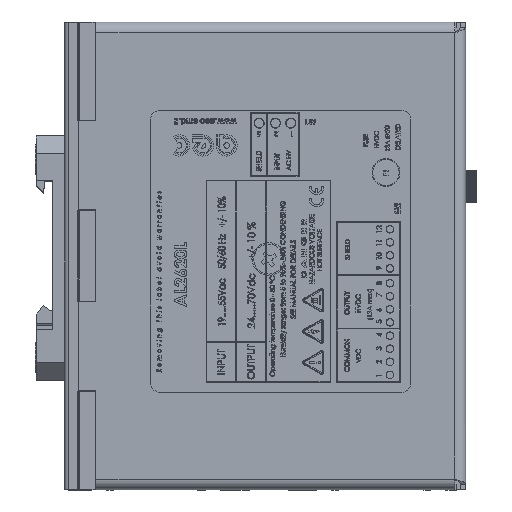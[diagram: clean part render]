
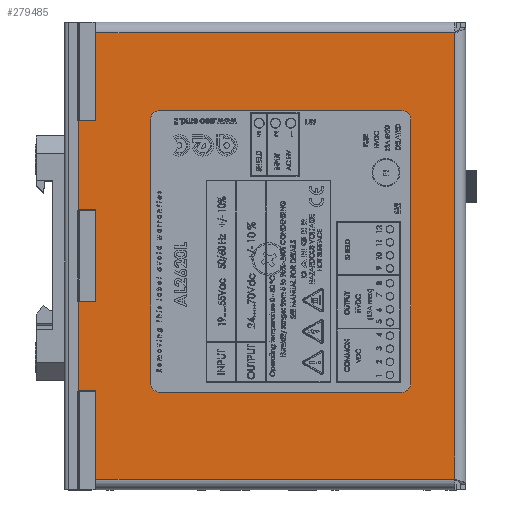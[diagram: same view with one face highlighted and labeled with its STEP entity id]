
A CAD part, top view. The second image highlights one B-rep face of the part: STEP entity #279485.
In plain terms, the highlighted planar face has unit normal (0, 0, 1) as drawn and (0, 1, 0) by its records, which use the part's own axes.
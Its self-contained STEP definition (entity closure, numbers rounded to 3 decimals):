
#4194 = CARTESIAN_POINT ( 'NONE',  ( 3.619, 1.5, -110.474 ) ) ;
#10604 = DIRECTION ( 'NONE',  ( 0., 0., 1. ) ) ;
#11599 = EDGE_CURVE ( 'NONE', #281097, #204895, #102443, .T. ) ;
#15467 = EDGE_CURVE ( 'NONE', #63811, #137137, #304868, .T. ) ;
#18132 = ORIENTED_EDGE ( 'NONE', *, *, #88905, .F. ) ;
#20168 = VERTEX_POINT ( 'NONE', #194477 ) ;
#21049 = LINE ( 'NONE', #186192, #291514 ) ;
#27359 = FACE_BOUND ( 'NONE', #86993, .T. ) ;
#28293 = EDGE_CURVE ( 'NONE', #146772, #172751, #120592, .T. ) ;
#31165 = CIRCLE ( 'NONE', #267890, 4.625 ) ;
#33889 = CARTESIAN_POINT ( 'NONE',  ( 130.319, 1.5, -4.974 ) ) ;
#34414 = CARTESIAN_POINT ( 'NONE',  ( 130.319, 1.5, -105.674 ) ) ;
#38899 = LINE ( 'NONE', #92819, #247579 ) ;
#40337 = AXIS2_PLACEMENT_3D ( 'NONE', #4194, #98381, #192610 ) ;
#40768 = DIRECTION ( 'NONE',  ( 0., 0., -1. ) ) ;
#41934 = CARTESIAN_POINT ( 'NONE',  ( 105.619, 1.5, -110.474 ) ) ;
#43786 = CARTESIAN_POINT ( 'NONE',  ( 5.119, 1.5, -105.674 ) ) ;
#44468 = CARTESIAN_POINT ( 'NONE',  ( 29.819, 1.5, -110.474 ) ) ;
#53046 = DIRECTION ( 'NONE',  ( -1., 0., 0. ) ) ;
#56879 = LINE ( 'NONE', #246806, #129760 ) ;
#59175 = EDGE_CURVE ( 'NONE', #172686, #266485, #165203, .T. ) ;
#60683 = ORIENTED_EDGE ( 'NONE', *, *, #71706, .F. ) ;
#63789 = VECTOR ( 'NONE', #78483, 1000. ) ;
#63811 = VERTEX_POINT ( 'NONE', #86865 ) ;
#71706 = EDGE_CURVE ( 'NONE', #98546, #172686, #296021, .T. ) ;
#74782 = CARTESIAN_POINT ( 'NONE',  ( 105.619, 1.5, -105.674 ) ) ;
#75668 = LINE ( 'NONE', #128144, #264935 ) ;
#78483 = DIRECTION ( 'NONE',  ( 0., 0., 1. ) ) ;
#81755 = VECTOR ( 'NONE', #53046, 1000. ) ;
#84065 = LINE ( 'NONE', #297050, #148369 ) ;
#86712 = ORIENTED_EDGE ( 'NONE', *, *, #146460, .F. ) ;
#86865 = CARTESIAN_POINT ( 'NONE',  ( 105.619, 1.5, -105.674 ) ) ;
#86883 = ORIENTED_EDGE ( 'NONE', *, *, #59175, .F. ) ;
#86993 = EDGE_LOOP ( 'NONE', ( #167207 ) ) ;
#88905 = EDGE_CURVE ( 'NONE', #266485, #204895, #84065, .T. ) ;
#92819 = CARTESIAN_POINT ( 'NONE',  ( 3.619, 1.5, -4.974 ) ) ;
#98381 = DIRECTION ( 'NONE',  ( 0., -1., 0. ) ) ;
#98546 = VERTEX_POINT ( 'NONE', #198259 ) ;
#102443 = LINE ( 'NONE', #170415, #81755 ) ;
#103852 = VERTEX_POINT ( 'NONE', #154703 ) ;
#105276 = ORIENTED_EDGE ( 'NONE', *, *, #267392, .T. ) ;
#105591 = ORIENTED_EDGE ( 'NONE', *, *, #28293, .F. ) ;
#113417 = CARTESIAN_POINT ( 'NONE',  ( 5.119, 1.5, -105.674 ) ) ;
#115529 = VERTEX_POINT ( 'NONE', #44468 ) ;
#120592 = LINE ( 'NONE', #166910, #241259 ) ;
#121588 = FACE_OUTER_BOUND ( 'NONE', #237625, .T. ) ;
#123650 = DIRECTION ( 'NONE',  ( 1., 0., 0. ) ) ;
#127132 = DIRECTION ( 'NONE',  ( -1., 0., 0. ) ) ;
#128144 = CARTESIAN_POINT ( 'NONE',  ( 3.619, 1.5, -110.474 ) ) ;
#129406 = CARTESIAN_POINT ( 'NONE',  ( 54.819, 1.5, -110.474 ) ) ;
#129760 = VECTOR ( 'NONE', #10604, 1000. ) ;
#137137 = VERTEX_POINT ( 'NONE', #34414 ) ;
#146460 = EDGE_CURVE ( 'NONE', #172751, #115529, #21049, .T. ) ;
#146573 = VECTOR ( 'NONE', #239996, 1000. ) ;
#146631 = ORIENTED_EDGE ( 'NONE', *, *, #15467, .F. ) ;
#146723 = ORIENTED_EDGE ( 'NONE', *, *, #300028, .T. ) ;
#146772 = VERTEX_POINT ( 'NONE', #43786 ) ;
#148369 = VECTOR ( 'NONE', #40768, 1000. ) ;
#150243 = DIRECTION ( 'NONE',  ( 0., 1., 0. ) ) ;
#152507 = EDGE_CURVE ( 'NONE', #281097, #63811, #56879, .T. ) ;
#154703 = CARTESIAN_POINT ( 'NONE',  ( 62.194, 1.5, -57.204 ) ) ;
#154816 = CARTESIAN_POINT ( 'NONE',  ( 66.819, 1.5, -57.204 ) ) ;
#165203 = LINE ( 'NONE', #213098, #238169 ) ;
#166762 = DIRECTION ( 'NONE',  ( 1., 0., 0. ) ) ;
#166910 = CARTESIAN_POINT ( 'NONE',  ( 2.119, 1.5, -105.674 ) ) ;
#167207 = ORIENTED_EDGE ( 'NONE', *, *, #236360, .F. ) ;
#170415 = CARTESIAN_POINT ( 'NONE',  ( 3.619, 1.5, -110.474 ) ) ;
#172686 = VERTEX_POINT ( 'NONE', #186587 ) ;
#172751 = VERTEX_POINT ( 'NONE', #288002 ) ;
#174419 = LINE ( 'NONE', #33889, #258865 ) ;
#175134 = EDGE_CURVE ( 'NONE', #20168, #137137, #174419, .T. ) ;
#183384 = CARTESIAN_POINT ( 'NONE',  ( 5.119, 1.5, -4.974 ) ) ;
#186192 = CARTESIAN_POINT ( 'NONE',  ( 29.819, 1.5, -110.474 ) ) ;
#186587 = CARTESIAN_POINT ( 'NONE',  ( 54.819, 1.5, -105.674 ) ) ;
#188390 = VERTEX_POINT ( 'NONE', #183384 ) ;
#192610 = DIRECTION ( 'NONE',  ( 0., 0., -1. ) ) ;
#194477 = CARTESIAN_POINT ( 'NONE',  ( 130.319, 1.5, -4.974 ) ) ;
#197853 = ORIENTED_EDGE ( 'NONE', *, *, #11599, .T. ) ;
#198259 = CARTESIAN_POINT ( 'NONE',  ( 54.819, 1.5, -110.474 ) ) ;
#204096 = DIRECTION ( 'NONE',  ( 1., 0., 0. ) ) ;
#204470 = LINE ( 'NONE', #113417, #292975 ) ;
#204895 = VERTEX_POINT ( 'NONE', #205696 ) ;
#205696 = CARTESIAN_POINT ( 'NONE',  ( 80.619, 1.5, -110.474 ) ) ;
#213098 = CARTESIAN_POINT ( 'NONE',  ( 54.819, 1.5, -105.674 ) ) ;
#215743 = PLANE ( 'NONE',  #40337 ) ;
#216259 = DIRECTION ( 'NONE',  ( -1., 0., 0. ) ) ;
#222293 = DIRECTION ( 'NONE',  ( 0., 0., -1. ) ) ;
#232244 = DIRECTION ( 'NONE',  ( 0., 0., 1. ) ) ;
#236360 = EDGE_CURVE ( 'NONE', #103852, #103852, #31165, .T. ) ;
#237625 = EDGE_LOOP ( 'NONE', ( #105276, #240596, #302524, #146631, #242667, #197853, #18132, #86883, #60683, #146723, #86712, #105591 ) ) ;
#238169 = VECTOR ( 'NONE', #166762, 1000. ) ;
#239996 = DIRECTION ( 'NONE',  ( 1., 0., 0. ) ) ;
#240596 = ORIENTED_EDGE ( 'NONE', *, *, #267051, .T. ) ;
#241259 = VECTOR ( 'NONE', #123650, 1000. ) ;
#242667 = ORIENTED_EDGE ( 'NONE', *, *, #152507, .F. ) ;
#246806 = CARTESIAN_POINT ( 'NONE',  ( 105.619, 1.5, -110.474 ) ) ;
#247579 = VECTOR ( 'NONE', #204096, 1000. ) ;
#252649 = DIRECTION ( 'NONE',  ( 0., 0., -1. ) ) ;
#258865 = VECTOR ( 'NONE', #222293, 1000. ) ;
#264935 = VECTOR ( 'NONE', #216259, 1000. ) ;
#266485 = VERTEX_POINT ( 'NONE', #300857 ) ;
#267051 = EDGE_CURVE ( 'NONE', #188390, #20168, #38899, .T. ) ;
#267392 = EDGE_CURVE ( 'NONE', #146772, #188390, #204470, .T. ) ;
#267890 = AXIS2_PLACEMENT_3D ( 'NONE', #154816, #150243, #127132 ) ;
#279485 = ADVANCED_FACE ( 'NONE', ( #27359, #121588 ), #215743, .F. ) ;
#281097 = VERTEX_POINT ( 'NONE', #41934 ) ;
#288002 = CARTESIAN_POINT ( 'NONE',  ( 29.819, 1.5, -105.674 ) ) ;
#291514 = VECTOR ( 'NONE', #252649, 1000. ) ;
#292975 = VECTOR ( 'NONE', #232244, 1000. ) ;
#296021 = LINE ( 'NONE', #129406, #63789 ) ;
#297050 = CARTESIAN_POINT ( 'NONE',  ( 80.619, 1.5, -110.474 ) ) ;
#300028 = EDGE_CURVE ( 'NONE', #98546, #115529, #75668, .T. ) ;
#300857 = CARTESIAN_POINT ( 'NONE',  ( 80.619, 1.5, -105.674 ) ) ;
#302524 = ORIENTED_EDGE ( 'NONE', *, *, #175134, .T. ) ;
#304868 = LINE ( 'NONE', #74782, #146573 ) ;
